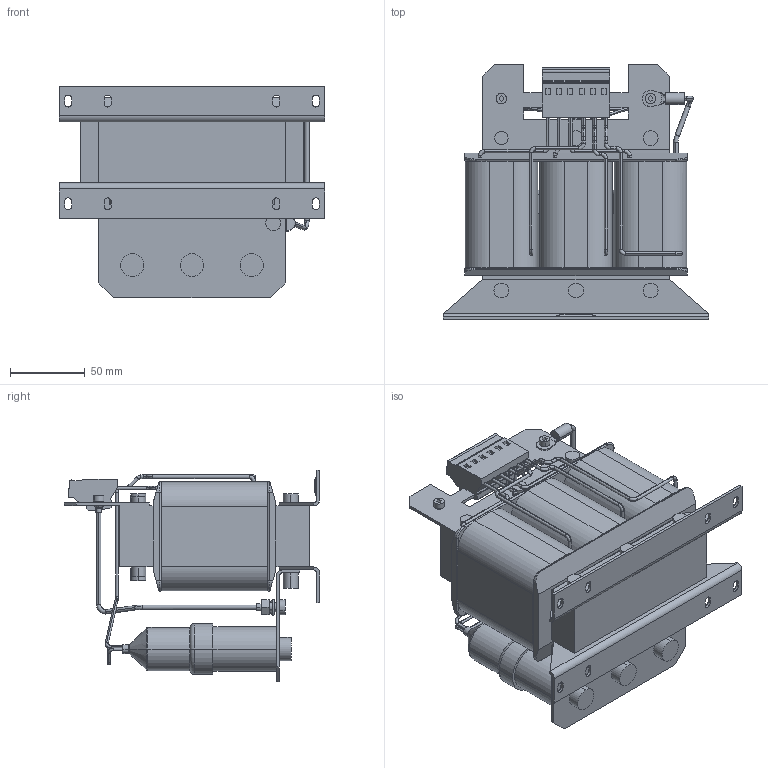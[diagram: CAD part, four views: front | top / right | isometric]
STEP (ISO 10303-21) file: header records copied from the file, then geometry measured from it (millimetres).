
FILE_DESCRIPTION (( 'STEP AP214' ), '1' );
FILE_NAME ('Kundenmodell 13Z1G04-1000^10073057_0001.STEP', '2023-03-09T09:14:36', ( '' ), ( '' ), 'SwSTEP 2.0', 'SolidWorks 2022', '' );
FILE_SCHEMA (( 'AUTOMOTIVE_DESIGN' ));
Length unit declared in the file: millimetre
Products named in the file (1): Kundenmodell 13Z1G04-1000^10073057_0001
Bounding box: 178 x 171.1 x 141.9 mm (x, y, z)
Volume: 1344053 mm3; surface area: 183055.4 mm2
Topology: 1 solids, 1 shells, 689 faces, 1774 edges, 1130 vertices
Faces by surface type: plane 273, cylinder 261, torus 114, bspline 35, cone 6
Entity records: 23906 total; most frequent: CARTESIAN_POINT 6659, DIRECTION 3631, ORIENTED_EDGE 3548, EDGE_CURVE 1774, AXIS2_PLACEMENT_3D 1410, VERTEX_POINT 1130, LINE 811, VECTOR 811
